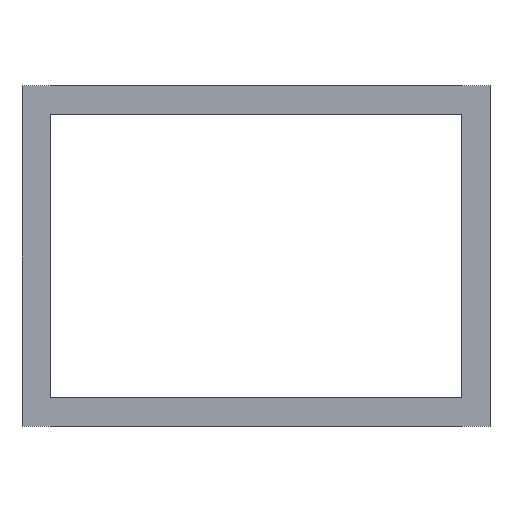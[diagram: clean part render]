
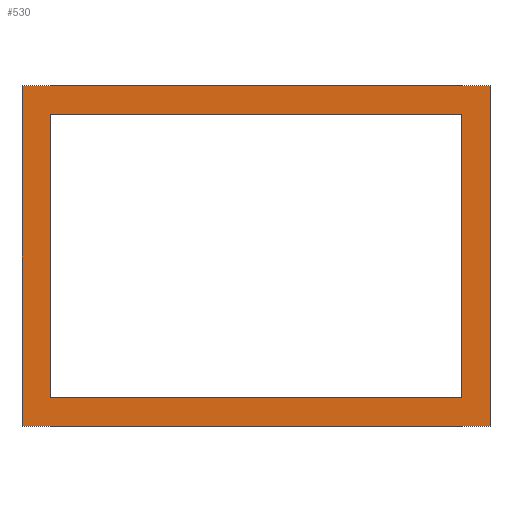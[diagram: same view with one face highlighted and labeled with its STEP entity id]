
A CAD part, front view. The second image highlights one B-rep face of the part: STEP entity #530.
In plain terms, the highlighted planar face has unit normal (0, -1, 0).
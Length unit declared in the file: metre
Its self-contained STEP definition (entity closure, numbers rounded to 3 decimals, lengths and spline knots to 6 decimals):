
#92=ORIENTED_EDGE('',*,*,#201,.F.);
#93=ORIENTED_EDGE('',*,*,#170,.T.);
#94=ORIENTED_EDGE('',*,*,#205,.T.);
#95=ORIENTED_EDGE('',*,*,#178,.F.);
#96=ORIENTED_EDGE('',*,*,#210,.F.);
#97=ORIENTED_EDGE('',*,*,#214,.T.);
#98=ORIENTED_EDGE('',*,*,#217,.T.);
#99=ORIENTED_EDGE('',*,*,#219,.F.);
#170=EDGE_CURVE('',#241,#240,#282,.T.);
#178=EDGE_CURVE('',#248,#249,#290,.T.);
#201=EDGE_CURVE('',#241,#248,#313,.T.);
#205=EDGE_CURVE('',#240,#249,#317,.T.);
#210=EDGE_CURVE('',#264,#265,#322,.T.);
#214=EDGE_CURVE('',#264,#266,#326,.T.);
#217=EDGE_CURVE('',#266,#267,#329,.T.);
#219=EDGE_CURVE('',#265,#267,#331,.T.);
#240=VERTEX_POINT('',#752);
#241=VERTEX_POINT('',#754);
#248=VERTEX_POINT('',#769);
#249=VERTEX_POINT('',#771);
#264=VERTEX_POINT('',#825);
#265=VERTEX_POINT('',#827);
#266=VERTEX_POINT('',#832);
#267=VERTEX_POINT('',#837);
#282=LINE('',#753,#354);
#290=LINE('',#770,#362);
#313=LINE('',#814,#385);
#317=LINE('',#819,#389);
#322=LINE('',#826,#394);
#326=LINE('',#833,#398);
#329=LINE('',#838,#401);
#331=LINE('',#841,#403);
#354=VECTOR('',#611,1.);
#362=VECTOR('',#621,1.);
#385=VECTOR('',#656,1.);
#389=VECTOR('',#662,1.);
#394=VECTOR('',#669,1.);
#398=VECTOR('',#675,1.);
#401=VECTOR('',#680,1.);
#403=VECTOR('',#684,1.);
#432=EDGE_LOOP('',(#92,#93,#94,#95));
#433=EDGE_LOOP('',(#96,#97,#98,#99));
#468=FACE_BOUND('',#432,.T.);
#469=FACE_BOUND('',#433,.T.);
#500=PLANE('',#573);
#530=ADVANCED_FACE('',(#468,#469),#500,.T.);
#573=AXIS2_PLACEMENT_3D('',#842,#685,#686);
#611=DIRECTION('',(-1.,0.,0.));
#621=DIRECTION('',(-1.,0.,0.));
#656=DIRECTION('',(0.,0.,-1.));
#662=DIRECTION('',(0.,0.,-1.));
#669=DIRECTION('',(0.,0.,1.));
#675=DIRECTION('',(-1.,0.,0.));
#680=DIRECTION('',(0.,0.,1.));
#684=DIRECTION('',(-1.,0.,0.));
#685=DIRECTION('',(0.,-1.,0.));
#686=DIRECTION('',(1.,0.,0.));
#752=CARTESIAN_POINT('',(-0.165,-0.22,0.12));
#753=CARTESIAN_POINT('',(0.,-0.22,0.12));
#754=CARTESIAN_POINT('',(0.165,-0.22,0.12));
#769=CARTESIAN_POINT('',(0.165,-0.22,-0.12));
#770=CARTESIAN_POINT('',(0.,-0.22,-0.12));
#771=CARTESIAN_POINT('',(-0.165,-0.22,-0.12));
#814=CARTESIAN_POINT('',(0.165,-0.22,0.));
#819=CARTESIAN_POINT('',(-0.165,-0.22,0.));
#825=CARTESIAN_POINT('',(0.145,-0.22,-0.1));
#826=CARTESIAN_POINT('',(0.145,-0.22,0.));
#827=CARTESIAN_POINT('',(0.145,-0.22,0.1));
#832=CARTESIAN_POINT('',(-0.145,-0.22,-0.1));
#833=CARTESIAN_POINT('',(0.,-0.22,-0.1));
#837=CARTESIAN_POINT('',(-0.145,-0.22,0.1));
#838=CARTESIAN_POINT('',(-0.145,-0.22,0.));
#841=CARTESIAN_POINT('',(0.,-0.22,0.1));
#842=CARTESIAN_POINT('',(0.,-0.22,0.));
